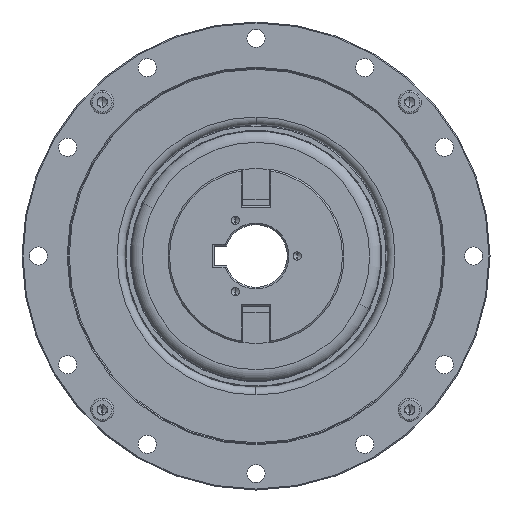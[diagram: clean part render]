
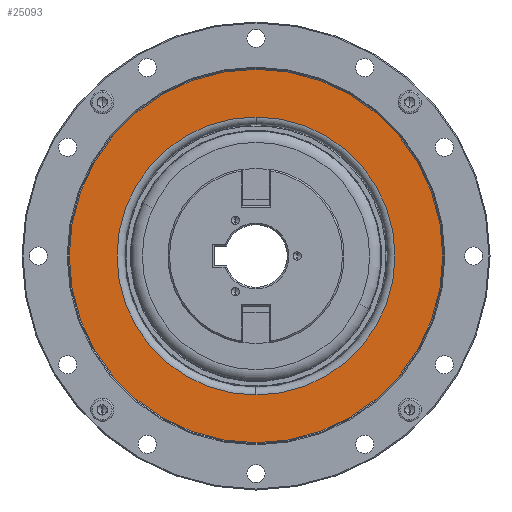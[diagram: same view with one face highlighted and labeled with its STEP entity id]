
A CAD part, left-side view. The second image highlights one B-rep face of the part: STEP entity #25093.
In plain terms, the highlighted planar face has unit normal (-1, 0, 0).
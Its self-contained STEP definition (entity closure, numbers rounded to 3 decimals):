
#523 = DIRECTION ( 'NONE',  ( -1., 0., 0. ) ) ;
#638 = VERTEX_POINT ( 'NONE', #2105 ) ;
#646 = CARTESIAN_POINT ( 'NONE',  ( 3.33, 56.675, 0. ) ) ;
#1391 = FACE_BOUND ( 'NONE', #20514, .T. ) ;
#2105 = CARTESIAN_POINT ( 'NONE',  ( 3.33, 0., -56.675 ) ) ;
#2356 = VERTEX_POINT ( 'NONE', #22937 ) ;
#3213 = EDGE_CURVE ( 'NONE', #638, #7726, #18728, .T. ) ;
#4377 = DIRECTION ( 'NONE',  ( -1., 0., 0. ) ) ;
#4554 = PLANE ( 'NONE',  #4799 ) ;
#4799 = AXIS2_PLACEMENT_3D ( 'NONE', #646, #10466, #24107 ) ;
#5223 = DIRECTION ( 'NONE',  ( -1., 0., 0. ) ) ;
#7218 = FACE_OUTER_BOUND ( 'NONE', #19299, .T. ) ;
#7726 = VERTEX_POINT ( 'NONE', #9221 ) ;
#8881 = EDGE_CURVE ( 'NONE', #2356, #12637, #14089, .T. ) ;
#9221 = CARTESIAN_POINT ( 'NONE',  ( 3.33, 0., 56.675 ) ) ;
#9560 = EDGE_CURVE ( 'NONE', #7726, #638, #23515, .T. ) ;
#10466 = DIRECTION ( 'NONE',  ( 1., 0., 0. ) ) ;
#10869 = CIRCLE ( 'NONE', #12126, 42.174 ) ;
#11257 = CARTESIAN_POINT ( 'NONE',  ( 3.33, 0., 0. ) ) ;
#12049 = AXIS2_PLACEMENT_3D ( 'NONE', #22945, #4377, #14233 ) ;
#12126 = AXIS2_PLACEMENT_3D ( 'NONE', #12252, #523, #14193 ) ;
#12252 = CARTESIAN_POINT ( 'NONE',  ( 3.33, 0., 0. ) ) ;
#12637 = VERTEX_POINT ( 'NONE', #18828 ) ;
#13253 = DIRECTION ( 'NONE',  ( 0., 0., 1. ) ) ;
#14089 = CIRCLE ( 'NONE', #21513, 42.174 ) ;
#14193 = DIRECTION ( 'NONE',  ( 0., 0., 1. ) ) ;
#14233 = DIRECTION ( 'NONE',  ( 0., 0., 1. ) ) ;
#14341 = EDGE_CURVE ( 'NONE', #12637, #2356, #10869, .T. ) ;
#14466 = ORIENTED_EDGE ( 'NONE', *, *, #8881, .F. ) ;
#15292 = ORIENTED_EDGE ( 'NONE', *, *, #9560, .T. ) ;
#15430 = ORIENTED_EDGE ( 'NONE', *, *, #14341, .F. ) ;
#16942 = CARTESIAN_POINT ( 'NONE',  ( 3.33, 0., 0. ) ) ;
#17532 = ORIENTED_EDGE ( 'NONE', *, *, #3213, .T. ) ;
#18728 = CIRCLE ( 'NONE', #12049, 56.675 ) ;
#18828 = CARTESIAN_POINT ( 'NONE',  ( 3.33, 0., 42.174 ) ) ;
#18902 = DIRECTION ( 'NONE',  ( 0., 0., 1. ) ) ;
#19299 = EDGE_LOOP ( 'NONE', ( #15292, #17532 ) ) ;
#20514 = EDGE_LOOP ( 'NONE', ( #15430, #14466 ) ) ;
#21513 = AXIS2_PLACEMENT_3D ( 'NONE', #16942, #5223, #18902 ) ;
#22937 = CARTESIAN_POINT ( 'NONE',  ( 3.33, 0., -42.174 ) ) ;
#22945 = CARTESIAN_POINT ( 'NONE',  ( 3.33, 0., 0. ) ) ;
#23515 = CIRCLE ( 'NONE', #23997, 56.675 ) ;
#23997 = AXIS2_PLACEMENT_3D ( 'NONE', #11257, #24880, #13253 ) ;
#24107 = DIRECTION ( 'NONE',  ( 0., 0., -1. ) ) ;
#24880 = DIRECTION ( 'NONE',  ( -1., 0., 0. ) ) ;
#25093 = ADVANCED_FACE ( 'NONE', ( #1391, #7218 ), #4554, .F. ) ;
